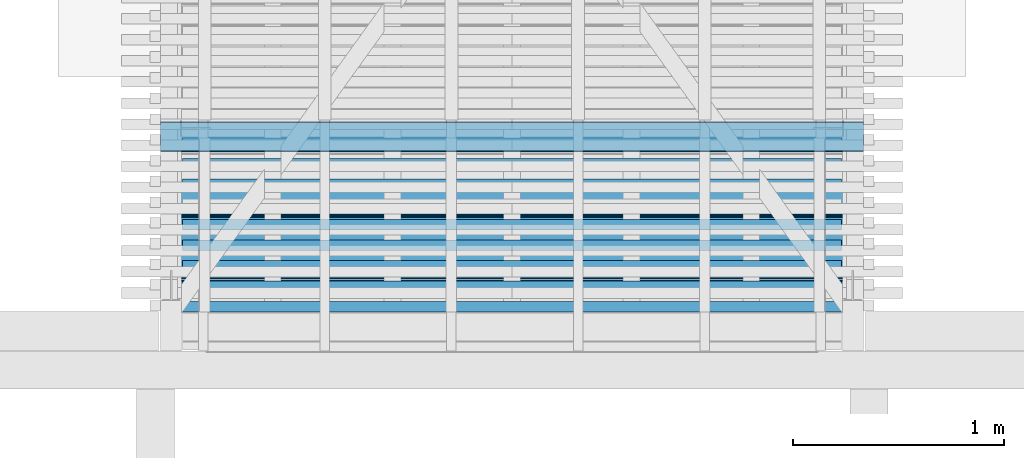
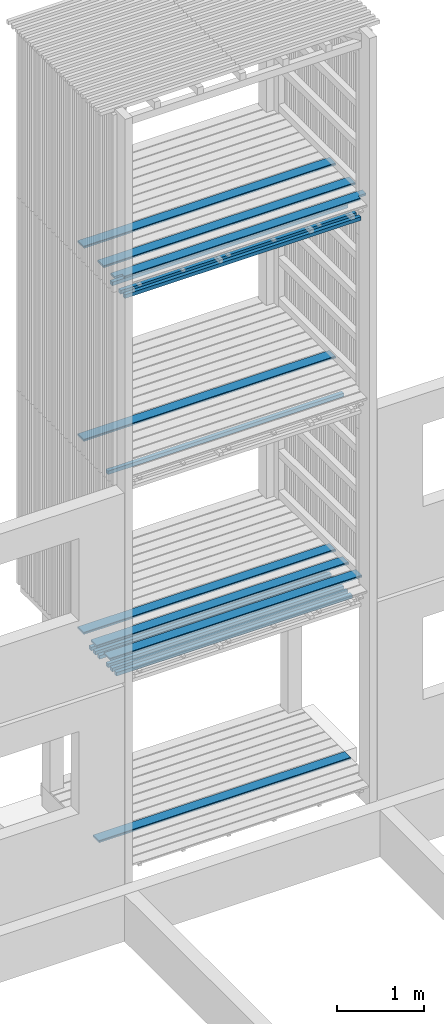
# One storey, part 16 of 182: 18 beams.
"""IFC2X3 building model written with IfcOpenShell, lengths in metres."""

from ifc_helpers import new_model, si_unit, frame, origin, place, context, project, spatial, faceted_brep, element, save


model = new_model("IFC2X3")

# Units and contexts
model_context = context("Model", 3, precision=1e-06, world=origin())
ifc_project = project(units=[si_unit("LENGTHUNIT", "METRE"), si_unit("PLANEANGLEUNIT", "RADIAN")], contexts=[model_context])

# Site, building, storey
site = spatial("IfcSite", under=ifc_project, CompositionType="ELEMENT")
building = spatial("IfcBuilding", under=site, CompositionType="ELEMENT")
storey = spatial("IfcBuildingStorey", under=building, Name="vs", CompositionType="ELEMENT", Elevation=-0.85)

# Beams
placement = place(None, origin())
beam_1_placement = place(placement, frame((6.539197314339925, 10.873827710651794, 2.467999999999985), z_axis=(0.0, 0.0, 1.0), x_axis=(-1.0, 0.0, 0.0)))
element("IfcBeam", 1, at=beam_1_placement, inside=storey, Name="Bardage", context=model_context, shape_type="Brep", body=[
    faceted_brep([(3.120000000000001, 0.025000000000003, -0.025), (3.120000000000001, -0.024999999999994, -0.025), (-3e-15, -0.024999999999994, -0.025), (-3e-15, 0.025000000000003, -0.025), (-3e-15, -0.024999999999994, -0.025), (3.120000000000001, -0.024999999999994, -0.025), (3.120000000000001, -0.024999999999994, 0.025), (-3e-15, -0.024999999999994, 0.025), (3.120000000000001, -0.024999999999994, -0.025), (3.120000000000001, 0.025000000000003, -0.025), (3.120000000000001, 0.025000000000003, 0.025), (3.120000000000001, -0.024999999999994, 0.025), (3.120000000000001, 0.025000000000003, 0.025), (3.120000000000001, 0.025000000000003, -0.025), (-3e-15, 0.025000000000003, -0.025), (-3e-15, 0.025000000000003, 0.025), (-3e-15, -0.024999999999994, 0.025), (3.120000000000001, -0.024999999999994, 0.025), (3.120000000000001, 0.025000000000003, 0.025), (-3e-15, 0.025000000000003, 0.025), (-3e-15, -0.024999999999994, -0.025), (-3e-15, -0.024999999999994, 0.025), (-3e-15, 0.025000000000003, 0.025), (-3e-15, 0.025000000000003, -0.025)], [[[0, 1, 2, 3]], [[4, 5, 6, 7]], [[8, 9, 10, 11]], [[12, 13, 14, 15]], [[16, 17, 18, 19]], [[20, 21, 22, 23]]]),
])
beam_2_placement = place(placement, frame((6.539197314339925, 11.06757771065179, 2.467999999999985), z_axis=(0.0, 0.0, 1.0), x_axis=(-1.0, -1e-15, 0.0)))
element("IfcBeam", 2, at=beam_2_placement, inside=storey, Name="Bardage", context=model_context, shape_type="Brep", body=[
    faceted_brep([(3.120000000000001, 0.025000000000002, -0.025), (3.120000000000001, -0.025000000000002, -0.025), (-3e-15, -0.024999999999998, -0.025), (-3e-15, 0.025000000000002, -0.025), (-3e-15, -0.024999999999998, -0.025), (3.120000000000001, -0.025000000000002, -0.025), (3.120000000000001, -0.025000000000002, 0.025), (-3e-15, -0.024999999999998, 0.025), (3.120000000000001, -0.025000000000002, -0.025), (3.120000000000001, 0.025000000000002, -0.025), (3.120000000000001, 0.025000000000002, 0.025), (3.120000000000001, -0.025000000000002, 0.025), (3.120000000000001, 0.025000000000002, 0.025), (3.120000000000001, 0.025000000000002, -0.025), (-3e-15, 0.025000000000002, -0.025), (-3e-15, 0.025000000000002, 0.025), (-3e-15, -0.024999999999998, 0.025), (3.120000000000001, -0.025000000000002, 0.025), (3.120000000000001, 0.025000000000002, 0.025), (-3e-15, 0.025000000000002, 0.025), (-3e-15, -0.024999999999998, -0.025), (-3e-15, -0.024999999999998, 0.025), (-3e-15, 0.025000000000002, 0.025), (-3e-15, 0.025000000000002, -0.025)], [[[0, 1, 2, 3]], [[4, 5, 6, 7]], [[8, 9, 10, 11]], [[12, 13, 14, 15]], [[16, 17, 18, 19]], [[20, 21, 22, 23]]]),
])
beam_3_placement = place(placement, frame((6.539197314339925, 11.358202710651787, 2.467999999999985), z_axis=(0.0, 0.0, 1.0), x_axis=(-1.0, -1e-15, 0.0)))
element("IfcBeam", 3, at=beam_3_placement, inside=storey, Name="Bardage", context=model_context, shape_type="Brep", body=[
    faceted_brep([(3.120000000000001, 0.024999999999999, -0.025), (3.120000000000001, -0.025000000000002, -0.025), (-3e-15, -0.025000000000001, -0.025), (-3e-15, 0.025000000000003, -0.025), (-3e-15, -0.025000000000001, -0.025), (3.120000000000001, -0.025000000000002, -0.025), (3.120000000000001, -0.025000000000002, 0.025), (-3e-15, -0.025000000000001, 0.025), (3.120000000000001, -0.025000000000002, -0.025), (3.120000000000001, 0.024999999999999, -0.025), (3.120000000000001, 0.024999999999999, 0.025), (3.120000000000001, -0.025000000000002, 0.025), (3.120000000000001, 0.024999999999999, 0.025), (3.120000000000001, 0.024999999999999, -0.025), (-3e-15, 0.025000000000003, -0.025), (-3e-15, 0.025000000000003, 0.025), (-3e-15, -0.025000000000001, 0.025), (3.120000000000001, -0.025000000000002, 0.025), (3.120000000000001, 0.024999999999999, 0.025), (-3e-15, 0.025000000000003, 0.025), (-3e-15, -0.025000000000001, -0.025), (-3e-15, -0.025000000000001, 0.025), (-3e-15, 0.025000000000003, 0.025), (-3e-15, 0.025000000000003, -0.025)], [[[0, 1, 2, 3]], [[4, 5, 6, 7]], [[8, 9, 10, 11]], [[12, 13, 14, 15]], [[16, 17, 18, 19]], [[20, 21, 22, 23]]]),
])
beam_4_placement = place(placement, frame((6.644197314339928, 10.884577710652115, 2.733499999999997), z_axis=(0.0, 0.0, 1.0), x_axis=(-1.0, -2e-15, 0.0)))
element("IfcBeam", 4, at=beam_4_placement, inside=storey, Name="Caillebotis", context=model_context, shape_type="Brep", body=[
    faceted_brep([(3.329999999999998, -0.072500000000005, -0.0135), (3.329999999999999, 0.072499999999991, -0.0135), (3.329999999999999, 0.072499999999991, 0.0085), (3.329999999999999, 0.067499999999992, 0.0135), (3.329999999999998, -0.067500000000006, 0.0135), (3.329999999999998, -0.072500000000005, 0.008500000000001), (0.0, -0.072500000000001, 0.008500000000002), (0.0, -0.067499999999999, 0.0135), (0.0, 0.067499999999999, 0.0135), (0.0, 0.072500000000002, 0.0085), (0.0, 0.072500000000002, -0.0135), (0.0, -0.072500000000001, -0.0135), (3.329999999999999, 0.072499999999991, 0.0085), (3.329999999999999, 0.072499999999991, -0.0135), (0.0, 0.072500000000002, -0.0135), (0.0, 0.072500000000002, 0.0085), (3.329999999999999, 0.067499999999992, 0.0135), (3.329999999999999, 0.072499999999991, 0.0085), (0.0, 0.072500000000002, 0.0085), (0.0, 0.067499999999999, 0.0135), (3.329999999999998, -0.067500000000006, 0.0135), (3.329999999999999, 0.067499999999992, 0.0135), (0.0, 0.067499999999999, 0.0135), (0.0, -0.067499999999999, 0.0135), (3.329999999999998, -0.072500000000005, 0.008500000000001), (3.329999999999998, -0.067500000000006, 0.0135), (0.0, -0.067499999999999, 0.0135), (0.0, -0.072500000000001, 0.008500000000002), (3.329999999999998, -0.072500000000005, -0.0135), (3.329999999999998, -0.072500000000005, 0.008500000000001), (0.0, -0.072500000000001, 0.008500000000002), (0.0, -0.072500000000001, -0.0135), (0.0, 0.072500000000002, -0.0135), (3.329999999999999, 0.072499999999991, -0.0135), (3.329999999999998, -0.072500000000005, -0.0135), (0.0, -0.072500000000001, -0.0135)], [[[0, 1, 2, 3, 4, 5]], [[6, 7, 8, 9, 10, 11]], [[12, 13, 14, 15]], [[16, 17, 18, 19]], [[20, 21, 22, 23]], [[24, 25, 26, 27]], [[28, 29, 30, 31]], [[32, 33, 34, 35]]]),
])
beam_5_placement = place(placement, frame((6.644197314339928, 11.184577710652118, 2.733499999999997), z_axis=(0.0, 0.0, 1.0), x_axis=(-1.0, 0.0, 0.0)))
element("IfcBeam", 5, at=beam_5_placement, inside=storey, Name="Caillebotis", context=model_context, shape_type="Brep", body=[
    faceted_brep([(3.329999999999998, -0.072499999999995, -0.0135), (3.329999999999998, 0.072500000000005, -0.0135), (3.329999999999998, 0.072500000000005, 0.0085), (3.329999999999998, 0.067500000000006, 0.0135), (3.329999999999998, -0.067499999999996, 0.0135), (3.329999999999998, -0.072499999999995, 0.008500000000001), (0.0, -0.072499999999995, 0.008500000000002), (0.0, -0.067499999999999, 0.0135), (0.0, 0.067500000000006, 0.0135), (0.0, 0.072500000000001, 0.0085), (0.0, 0.072500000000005, -0.0135), (0.0, -0.072499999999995, -0.0135), (3.329999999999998, 0.072500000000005, 0.0085), (3.329999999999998, 0.072500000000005, -0.0135), (0.0, 0.072500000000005, -0.0135), (0.0, 0.072500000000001, 0.0085), (3.329999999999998, 0.067500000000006, 0.0135), (3.329999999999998, 0.072500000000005, 0.0085), (0.0, 0.072500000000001, 0.0085), (0.0, 0.067500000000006, 0.0135), (3.329999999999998, -0.067499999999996, 0.0135), (3.329999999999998, 0.067500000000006, 0.0135), (0.0, 0.067500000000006, 0.0135), (0.0, -0.067499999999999, 0.0135), (3.329999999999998, -0.072499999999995, 0.008500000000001), (3.329999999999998, -0.067499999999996, 0.0135), (0.0, -0.067499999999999, 0.0135), (0.0, -0.072499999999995, 0.008500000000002), (3.329999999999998, -0.072499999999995, -0.0135), (3.329999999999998, -0.072499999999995, 0.008500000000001), (0.0, -0.072499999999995, 0.008500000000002), (0.0, -0.072499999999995, -0.0135), (0.0, 0.072500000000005, -0.0135), (3.329999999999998, 0.072500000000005, -0.0135), (3.329999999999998, -0.072499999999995, -0.0135), (0.0, -0.072499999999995, -0.0135)], [[[0, 1, 2, 3, 4, 5]], [[6, 7, 8, 9, 10, 11]], [[12, 13, 14, 15]], [[16, 17, 18, 19]], [[20, 21, 22, 23]], [[24, 25, 26, 27]], [[28, 29, 30, 31]], [[32, 33, 34, 35]]]),
])
beam_6_placement = place(placement, frame((6.539197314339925, 11.261327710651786, 2.467999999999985), z_axis=(0.0, 0.0, 1.0), x_axis=(-1.0, 0.0, 0.0)))
element("IfcBeam", 6, at=beam_6_placement, inside=storey, Name="Bardage", context=model_context, shape_type="Brep", body=[
    faceted_brep([(3.120000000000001, 0.024999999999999, -0.025), (3.120000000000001, -0.024999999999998, -0.025), (-3e-15, -0.025000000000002, -0.025), (-3e-15, 0.024999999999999, -0.025), (-3e-15, -0.025000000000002, -0.025), (3.120000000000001, -0.024999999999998, -0.025), (3.120000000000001, -0.024999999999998, 0.025), (-3e-15, -0.025000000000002, 0.025), (3.120000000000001, -0.024999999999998, -0.025), (3.120000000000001, 0.024999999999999, -0.025), (3.120000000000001, 0.024999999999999, 0.025), (3.120000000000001, -0.024999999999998, 0.025), (3.120000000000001, 0.024999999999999, 0.025), (3.120000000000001, 0.024999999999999, -0.025), (-3e-15, 0.024999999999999, -0.025), (-3e-15, 0.024999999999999, 0.025), (-3e-15, -0.025000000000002, 0.025), (3.120000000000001, -0.024999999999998, 0.025), (3.120000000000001, 0.024999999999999, 0.025), (-3e-15, 0.024999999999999, 0.025), (-3e-15, -0.025000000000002, -0.025), (-3e-15, -0.025000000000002, 0.025), (-3e-15, 0.024999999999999, 0.025), (-3e-15, 0.024999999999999, -0.025)], [[[0, 1, 2, 3]], [[4, 5, 6, 7]], [[8, 9, 10, 11]], [[12, 13, 14, 15]], [[16, 17, 18, 19]], [[20, 21, 22, 23]]]),
])
beam_7_placement = place(placement, frame((6.539197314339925, 11.455077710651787, 2.467999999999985), z_axis=(0.0, 0.0, 1.0), x_axis=(-1.0, -1e-15, 0.0)))
element("IfcBeam", 7, at=beam_7_placement, inside=storey, Name="Bardage", context=model_context, shape_type="Brep", body=[
    faceted_brep([(3.120000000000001, 0.025000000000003, -0.025), (3.120000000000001, -0.025000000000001, -0.025), (-3e-15, -0.024999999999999, -0.025), (-3e-15, 0.025000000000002, -0.025), (-3e-15, -0.024999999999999, -0.025), (3.120000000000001, -0.025000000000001, -0.025), (3.120000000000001, -0.025000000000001, 0.025), (-3e-15, -0.024999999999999, 0.025), (3.120000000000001, -0.025000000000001, -0.025), (3.120000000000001, 0.025000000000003, -0.025), (3.120000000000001, 0.025000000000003, 0.025), (3.120000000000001, -0.025000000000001, 0.025), (3.120000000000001, 0.025000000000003, 0.025), (3.120000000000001, 0.025000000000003, -0.025), (-3e-15, 0.025000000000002, -0.025), (-3e-15, 0.025000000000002, 0.025), (-3e-15, -0.024999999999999, 0.025), (3.120000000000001, -0.025000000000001, 0.025), (3.120000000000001, 0.025000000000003, 0.025), (-3e-15, 0.025000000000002, 0.025), (-3e-15, -0.024999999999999, -0.025), (-3e-15, -0.024999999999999, 0.025), (-3e-15, 0.025000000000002, 0.025), (-3e-15, 0.025000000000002, -0.025)], [[[0, 1, 2, 3]], [[4, 5, 6, 7]], [[8, 9, 10, 11]], [[12, 13, 14, 15]], [[16, 17, 18, 19]], [[20, 21, 22, 23]]]),
])
beam_8_placement = place(placement, frame((6.644197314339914, 11.134577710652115, 0.033500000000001), z_axis=(0.0, 0.0, 1.0), x_axis=(-1.0, -1e-15, 0.0)))
element("IfcBeam", 8, at=beam_8_placement, inside=storey, Name="Caillebotis", context=model_context, shape_type="Brep", body=[
    faceted_brep([(3.329999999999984, -0.067500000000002, 0.0135), (3.329999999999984, -0.072500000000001, 0.008500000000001), (3.329999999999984, -0.072500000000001, -0.013500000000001), (3.329999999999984, 0.072499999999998, -0.013500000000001), (3.329999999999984, 0.072499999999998, 0.0085), (3.329999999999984, 0.067499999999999, 0.0135), (0.0, 0.067499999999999, 0.0135), (0.0, 0.072500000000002, 0.0085), (0.0, 0.072500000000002, -0.013500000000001), (0.0, -0.072500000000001, -0.013500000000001), (0.0, -0.072500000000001, 0.008500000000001), (0.0, -0.067499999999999, 0.0135), (3.329999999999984, -0.072500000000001, -0.013500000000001), (3.329999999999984, -0.072500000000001, 0.008500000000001), (0.0, -0.072500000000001, 0.008500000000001), (0.0, -0.072500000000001, -0.013500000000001), (3.329999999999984, 0.072499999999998, -0.013500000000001), (3.329999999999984, -0.072500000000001, -0.013500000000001), (0.0, -0.072500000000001, -0.013500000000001), (0.0, 0.072500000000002, -0.013500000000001), (3.329999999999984, 0.072499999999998, 0.0085), (3.329999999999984, 0.072499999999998, -0.013500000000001), (0.0, 0.072500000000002, -0.013500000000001), (0.0, 0.072500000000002, 0.0085), (3.329999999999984, 0.067499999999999, 0.0135), (3.329999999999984, 0.072499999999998, 0.0085), (0.0, 0.072500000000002, 0.0085), (0.0, 0.067499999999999, 0.0135), (3.329999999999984, -0.067500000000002, 0.0135), (3.329999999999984, 0.067499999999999, 0.0135), (0.0, 0.067499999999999, 0.0135), (0.0, -0.067499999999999, 0.0135), (0.0, -0.072500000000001, 0.008500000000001), (3.329999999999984, -0.072500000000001, 0.008500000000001), (3.329999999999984, -0.067500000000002, 0.0135), (0.0, -0.067499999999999, 0.0135)], [[[0, 1, 2, 3, 4, 5]], [[6, 7, 8, 9, 10, 11]], [[12, 13, 14, 15]], [[16, 17, 18, 19]], [[20, 21, 22, 23]], [[24, 25, 26, 27]], [[28, 29, 30, 31]], [[32, 33, 34, 35]]]),
])
beam_9_placement = place(placement, frame((6.539197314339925, 10.776952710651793, 7.867999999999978), z_axis=(0.0, 0.0, 1.0), x_axis=(-1.0, 0.0, 0.0)))
element("IfcBeam", 9, at=beam_9_placement, inside=storey, Name="Bardage", context=model_context, shape_type="Brep", body=[
    faceted_brep([(3.120000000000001, 0.025000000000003, -0.025000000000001), (3.120000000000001, -0.024999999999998, -0.025000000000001), (-3e-15, -0.024999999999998, -0.025000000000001), (-3e-15, 0.025000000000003, -0.025000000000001), (-3e-15, -0.024999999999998, -0.025000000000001), (3.120000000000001, -0.024999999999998, -0.025000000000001), (3.120000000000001, -0.024999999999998, 0.024999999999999), (-3e-15, -0.024999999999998, 0.024999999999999), (3.120000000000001, -0.024999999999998, -0.025000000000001), (3.120000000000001, 0.025000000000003, -0.025000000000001), (3.120000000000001, 0.025000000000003, 0.024999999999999), (3.120000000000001, -0.024999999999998, 0.024999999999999), (3.120000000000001, 0.025000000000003, 0.024999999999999), (3.120000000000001, 0.025000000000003, -0.025000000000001), (-3e-15, 0.025000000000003, -0.025000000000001), (-3e-15, 0.025000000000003, 0.024999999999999), (-3e-15, -0.024999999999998, 0.024999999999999), (3.120000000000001, -0.024999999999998, 0.024999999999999), (3.120000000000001, 0.025000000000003, 0.024999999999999), (-3e-15, 0.025000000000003, 0.024999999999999), (-3e-15, -0.024999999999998, -0.025000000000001), (-3e-15, -0.024999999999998, 0.024999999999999), (-3e-15, 0.025000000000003, 0.024999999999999), (-3e-15, 0.025000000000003, -0.025000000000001)], [[[0, 1, 2, 3]], [[4, 5, 6, 7]], [[8, 9, 10, 11]], [[12, 13, 14, 15]], [[16, 17, 18, 19]], [[20, 21, 22, 23]]]),
])
beam_10_placement = place(placement, frame((6.644197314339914, 11.484577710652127, 2.733499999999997), z_axis=(0.0, 0.0, 1.0), x_axis=(-1.0, -8e-15, 0.0)))
element("IfcBeam", 10, at=beam_10_placement, inside=storey, Name="Caillebotis", context=model_context, shape_type="Brep", body=[
    faceted_brep([(3.329999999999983, -0.072500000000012, -0.0135), (3.329999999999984, 0.072499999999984, -0.0135), (3.329999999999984, 0.072499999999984, 0.0085), (3.329999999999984, 0.067499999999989, 0.0135), (3.329999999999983, -0.067500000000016, 0.0135), (3.329999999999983, -0.072500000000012, 0.008500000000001), (-1.5e-14, -0.072499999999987, 0.008500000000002), (-1.5e-14, -0.067499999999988, 0.0135), (-1.4e-14, 0.067500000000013, 0.0135), (-1.4e-14, 0.072500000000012, 0.0085), (-1.4e-14, 0.072500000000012, -0.0135), (-1.5e-14, -0.072499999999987, -0.0135), (3.329999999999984, 0.072499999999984, 0.0085), (3.329999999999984, 0.072499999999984, -0.0135), (-1.4e-14, 0.072500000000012, -0.0135), (-1.4e-14, 0.072500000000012, 0.0085), (3.329999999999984, 0.067499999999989, 0.0135), (3.329999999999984, 0.072499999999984, 0.0085), (-1.4e-14, 0.072500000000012, 0.0085), (-1.4e-14, 0.067500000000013, 0.0135), (3.329999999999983, -0.067500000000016, 0.0135), (3.329999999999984, 0.067499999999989, 0.0135), (-1.4e-14, 0.067500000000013, 0.0135), (-1.5e-14, -0.067499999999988, 0.0135), (3.329999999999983, -0.072500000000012, 0.008500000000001), (3.329999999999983, -0.067500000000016, 0.0135), (-1.5e-14, -0.067499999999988, 0.0135), (-1.5e-14, -0.072499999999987, 0.008500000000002), (3.329999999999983, -0.072500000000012, -0.0135), (3.329999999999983, -0.072500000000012, 0.008500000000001), (-1.5e-14, -0.072499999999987, 0.008500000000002), (-1.5e-14, -0.072499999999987, -0.0135), (-1.4e-14, 0.072500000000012, -0.0135), (3.329999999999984, 0.072499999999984, -0.0135), (3.329999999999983, -0.072500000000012, -0.0135), (-1.5e-14, -0.072499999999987, -0.0135)], [[[0, 1, 2, 3, 4, 5]], [[6, 7, 8, 9, 10, 11]], [[12, 13, 14, 15]], [[16, 17, 18, 19]], [[20, 21, 22, 23]], [[24, 25, 26, 27]], [[28, 29, 30, 31]], [[32, 33, 34, 35]]]),
])
beam_11_placement = place(placement, frame((6.539197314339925, 11.067577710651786, 5.167999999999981), z_axis=(0.0, 0.0, 1.0), x_axis=(-1.0, 0.0, 0.0)))
element("IfcBeam", 11, at=beam_11_placement, inside=storey, Name="Bardage", context=model_context, shape_type="Brep", body=[
    faceted_brep([(3.120000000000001, 0.025000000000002, -0.025), (3.120000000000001, -0.025000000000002, -0.025), (-3e-15, -0.025000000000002, -0.025), (-3e-15, 0.024999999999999, -0.025), (-3e-15, -0.025000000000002, -0.025), (3.120000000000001, -0.025000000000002, -0.025), (3.120000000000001, -0.025000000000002, 0.025000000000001), (-3e-15, -0.025000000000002, 0.025000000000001), (3.120000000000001, -0.025000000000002, -0.025), (3.120000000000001, 0.025000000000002, -0.025), (3.120000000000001, 0.025000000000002, 0.025000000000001), (3.120000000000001, -0.025000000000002, 0.025000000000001), (3.120000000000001, 0.025000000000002, 0.025000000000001), (3.120000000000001, 0.025000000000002, -0.025), (-3e-15, 0.024999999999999, -0.025), (-3e-15, 0.024999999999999, 0.025000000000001), (-3e-15, -0.025000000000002, 0.025000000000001), (3.120000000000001, -0.025000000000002, 0.025000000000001), (3.120000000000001, 0.025000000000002, 0.025000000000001), (-3e-15, 0.024999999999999, 0.025000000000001), (-3e-15, -0.025000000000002, -0.025), (-3e-15, -0.025000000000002, 0.025000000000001), (-3e-15, 0.024999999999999, 0.025000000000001), (-3e-15, 0.024999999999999, -0.025)], [[[0, 1, 2, 3]], [[4, 5, 6, 7]], [[8, 9, 10, 11]], [[12, 13, 14, 15]], [[16, 17, 18, 19]], [[20, 21, 22, 23]]]),
])
beam_12_placement = place(placement, frame((6.644197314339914, 11.484577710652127, 5.433499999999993), z_axis=(0.0, 0.0, 1.0), x_axis=(-1.0, -8e-15, 0.0)))
element("IfcBeam", 12, at=beam_12_placement, inside=storey, Name="Caillebotis", context=model_context, shape_type="Brep", body=[
    faceted_brep([(3.329999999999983, -0.072500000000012, -0.0135), (3.329999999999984, 0.072499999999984, -0.0135), (3.329999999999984, 0.072499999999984, 0.0085), (3.329999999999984, 0.067499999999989, 0.0135), (3.329999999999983, -0.067500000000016, 0.0135), (3.329999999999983, -0.072500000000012, 0.008500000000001), (-1.5e-14, -0.072499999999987, 0.008500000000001), (-1.5e-14, -0.067499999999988, 0.0135), (-1.4e-14, 0.067500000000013, 0.0135), (-1.4e-14, 0.072500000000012, 0.0085), (-1.4e-14, 0.072500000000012, -0.0135), (-1.5e-14, -0.072499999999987, -0.0135), (3.329999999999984, 0.072499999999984, 0.0085), (3.329999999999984, 0.072499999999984, -0.0135), (-1.4e-14, 0.072500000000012, -0.0135), (-1.4e-14, 0.072500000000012, 0.0085), (3.329999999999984, 0.067499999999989, 0.0135), (3.329999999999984, 0.072499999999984, 0.0085), (-1.4e-14, 0.072500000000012, 0.0085), (-1.4e-14, 0.067500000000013, 0.0135), (3.329999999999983, -0.067500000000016, 0.0135), (3.329999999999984, 0.067499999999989, 0.0135), (-1.4e-14, 0.067500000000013, 0.0135), (-1.5e-14, -0.067499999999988, 0.0135), (3.329999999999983, -0.072500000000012, 0.008500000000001), (3.329999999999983, -0.067500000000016, 0.0135), (-1.5e-14, -0.067499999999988, 0.0135), (-1.5e-14, -0.072499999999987, 0.008500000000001), (3.329999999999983, -0.072500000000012, -0.0135), (3.329999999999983, -0.072500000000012, 0.008500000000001), (-1.5e-14, -0.072499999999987, 0.008500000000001), (-1.5e-14, -0.072499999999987, -0.0135), (-1.4e-14, 0.072500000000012, -0.0135), (3.329999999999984, 0.072499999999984, -0.0135), (3.329999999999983, -0.072500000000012, -0.0135), (-1.5e-14, -0.072499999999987, -0.0135)], [[[0, 1, 2, 3, 4, 5]], [[6, 7, 8, 9, 10, 11]], [[12, 13, 14, 15]], [[16, 17, 18, 19]], [[20, 21, 22, 23]], [[24, 25, 26, 27]], [[28, 29, 30, 31]], [[32, 33, 34, 35]]]),
])
beam_13_placement = place(placement, frame((6.644197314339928, 11.484577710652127, 8.13349999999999), z_axis=(0.0, 0.0, 1.0), x_axis=(-1.0, -8e-15, 0.0)))
element("IfcBeam", 13, at=beam_13_placement, inside=storey, Name="Caillebotis", context=model_context, shape_type="Brep", body=[
    faceted_brep([(3.329999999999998, -0.072500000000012, -0.013500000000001), (3.329999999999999, 0.072499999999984, -0.013500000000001), (3.329999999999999, 0.072499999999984, 0.008499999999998), (3.329999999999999, 0.067499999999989, 0.013499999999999), (3.329999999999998, -0.067500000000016, 0.013499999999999), (3.329999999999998, -0.072500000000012, 0.0085), (-1e-15, -0.072499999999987, 0.0085), (-1e-15, -0.067499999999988, 0.013499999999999), (1e-15, 0.067500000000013, 0.013499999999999), (1e-15, 0.072500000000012, 0.008499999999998), (1e-15, 0.072500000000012, -0.013500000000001), (-1e-15, -0.072499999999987, -0.013500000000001), (3.329999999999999, 0.072499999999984, 0.008499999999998), (3.329999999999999, 0.072499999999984, -0.013500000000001), (1e-15, 0.072500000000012, -0.013500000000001), (1e-15, 0.072500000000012, 0.008499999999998), (3.329999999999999, 0.067499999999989, 0.013499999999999), (3.329999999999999, 0.072499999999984, 0.008499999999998), (1e-15, 0.072500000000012, 0.008499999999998), (1e-15, 0.067500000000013, 0.013499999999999), (3.329999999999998, -0.067500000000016, 0.013499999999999), (3.329999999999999, 0.067499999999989, 0.013499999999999), (1e-15, 0.067500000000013, 0.013499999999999), (-1e-15, -0.067499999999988, 0.013499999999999), (3.329999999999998, -0.072500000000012, 0.0085), (3.329999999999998, -0.067500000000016, 0.013499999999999), (-1e-15, -0.067499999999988, 0.013499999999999), (-1e-15, -0.072499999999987, 0.0085), (3.329999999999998, -0.072500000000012, -0.013500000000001), (3.329999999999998, -0.072500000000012, 0.0085), (-1e-15, -0.072499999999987, 0.0085), (-1e-15, -0.072499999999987, -0.013500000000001), (1e-15, 0.072500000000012, -0.013500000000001), (3.329999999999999, 0.072499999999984, -0.013500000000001), (3.329999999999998, -0.072500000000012, -0.013500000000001), (-1e-15, -0.072499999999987, -0.013500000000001)], [[[0, 1, 2, 3, 4, 5]], [[6, 7, 8, 9, 10, 11]], [[12, 13, 14, 15]], [[16, 17, 18, 19]], [[20, 21, 22, 23]], [[24, 25, 26, 27]], [[28, 29, 30, 31]], [[32, 33, 34, 35]]]),
])
beam_14_placement = place(placement, frame((6.539197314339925, 10.680077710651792, 7.867999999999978), z_axis=(0.0, 0.0, 1.0), x_axis=(-1.0, 0.0, 0.0)))
element("IfcBeam", 14, at=beam_14_placement, inside=storey, Name="Bardage", context=model_context, shape_type="Brep", body=[
    faceted_brep([(3.120000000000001, -0.025000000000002, 0.024999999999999), (3.120000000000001, -0.025000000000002, -0.025000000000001), (3.120000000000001, 0.024999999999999, -0.025000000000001), (3.120000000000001, 0.024999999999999, 0.024999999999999), (-3e-15, 0.024999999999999, 0.024999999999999), (-3e-15, 0.024999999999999, -0.025000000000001), (-3e-15, -0.024999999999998, -0.025000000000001), (-3e-15, -0.024999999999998, 0.024999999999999), (3.120000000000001, -0.025000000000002, -0.025000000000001), (3.120000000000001, -0.025000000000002, 0.024999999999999), (-3e-15, -0.024999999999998, 0.024999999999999), (-3e-15, -0.024999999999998, -0.025000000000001), (3.120000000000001, 0.024999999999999, -0.025000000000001), (3.120000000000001, -0.025000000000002, -0.025000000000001), (-3e-15, -0.024999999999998, -0.025000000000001), (-3e-15, 0.024999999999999, -0.025000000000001), (3.120000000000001, 0.024999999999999, 0.024999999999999), (3.120000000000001, 0.024999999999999, -0.025000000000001), (-3e-15, 0.024999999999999, -0.025000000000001), (-3e-15, 0.024999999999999, 0.024999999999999), (3.120000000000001, -0.025000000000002, 0.024999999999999), (3.120000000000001, 0.024999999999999, 0.024999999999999), (-3e-15, 0.024999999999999, 0.024999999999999), (-3e-15, -0.024999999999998, 0.024999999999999)], [[[0, 1, 2, 3]], [[4, 5, 6, 7]], [[8, 9, 10, 11]], [[12, 13, 14, 15]], [[16, 17, 18, 19]], [[20, 21, 22, 23]]]),
])
beam_15_placement = place(placement, frame((6.539197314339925, 10.97070271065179, 2.467999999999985), z_axis=(0.0, 0.0, 1.0), x_axis=(-1.0, -1e-15, 0.0)))
element("IfcBeam", 15, at=beam_15_placement, inside=storey, Name="Bardage", context=model_context, shape_type="Brep", body=[
    faceted_brep([(3.120000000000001, 0.024999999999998, -0.025), (3.120000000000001, -0.025000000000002, -0.025), (-3e-15, -0.024999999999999, -0.025), (-3e-15, 0.025000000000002, -0.025), (-3e-15, -0.024999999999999, -0.025), (3.120000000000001, -0.025000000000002, -0.025), (3.120000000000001, -0.025000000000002, 0.025), (-3e-15, -0.024999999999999, 0.025), (3.120000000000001, -0.025000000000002, -0.025), (3.120000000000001, 0.024999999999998, -0.025), (3.120000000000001, 0.024999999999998, 0.025), (3.120000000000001, -0.025000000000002, 0.025), (3.120000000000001, 0.024999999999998, 0.025), (3.120000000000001, 0.024999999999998, -0.025), (-3e-15, 0.025000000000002, -0.025), (-3e-15, 0.025000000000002, 0.025), (-3e-15, -0.024999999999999, 0.025), (3.120000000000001, -0.025000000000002, 0.025), (3.120000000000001, 0.024999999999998, 0.025), (-3e-15, 0.025000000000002, 0.025), (-3e-15, -0.024999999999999, -0.025), (-3e-15, -0.024999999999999, 0.025), (-3e-15, 0.025000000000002, 0.025), (-3e-15, 0.025000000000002, -0.025)], [[[0, 1, 2, 3]], [[4, 5, 6, 7]], [[8, 9, 10, 11]], [[12, 13, 14, 15]], [[16, 17, 18, 19]], [[20, 21, 22, 23]]]),
])
beam_16_placement = place(placement, frame((6.644197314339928, 11.034577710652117, 8.13349999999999), z_axis=(0.0, 0.0, 1.0), x_axis=(-1.0, -1e-15, 0.0)))
element("IfcBeam", 16, at=beam_16_placement, inside=storey, Name="Caillebotis", context=model_context, shape_type="Brep", body=[
    faceted_brep([(3.329999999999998, -0.072500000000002, -0.013500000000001), (3.329999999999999, 0.072500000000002, -0.013500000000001), (3.329999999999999, 0.072500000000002, 0.008499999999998), (3.329999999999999, 0.067499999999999, 0.013499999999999), (3.329999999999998, -0.067499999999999, 0.013499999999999), (3.329999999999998, -0.072500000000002, 0.0085), (0.0, -0.072499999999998, 0.0085), (0.0, -0.067499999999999, 0.013499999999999), (0.0, 0.067500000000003, 0.013499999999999), (0.0, 0.072500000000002, 0.008499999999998), (0.0, 0.072500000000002, -0.013500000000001), (0.0, -0.072499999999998, -0.013500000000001), (3.329999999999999, 0.072500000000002, 0.008499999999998), (3.329999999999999, 0.072500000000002, -0.013500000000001), (0.0, 0.072500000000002, -0.013500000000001), (0.0, 0.072500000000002, 0.008499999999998), (3.329999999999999, 0.067499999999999, 0.013499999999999), (3.329999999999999, 0.072500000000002, 0.008499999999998), (0.0, 0.072500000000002, 0.008499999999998), (0.0, 0.067500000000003, 0.013499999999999), (3.329999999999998, -0.067499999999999, 0.013499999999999), (3.329999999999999, 0.067499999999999, 0.013499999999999), (0.0, 0.067500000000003, 0.013499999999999), (0.0, -0.067499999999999, 0.013499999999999), (3.329999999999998, -0.072500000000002, 0.0085), (3.329999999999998, -0.067499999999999, 0.013499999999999), (0.0, -0.067499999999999, 0.013499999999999), (0.0, -0.072499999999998, 0.0085), (3.329999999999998, -0.072500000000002, -0.013500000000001), (3.329999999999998, -0.072500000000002, 0.0085), (0.0, -0.072499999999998, 0.0085), (0.0, -0.072499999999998, -0.013500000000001), (0.0, 0.072500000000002, -0.013500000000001), (3.329999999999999, 0.072500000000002, -0.013500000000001), (3.329999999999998, -0.072500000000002, -0.013500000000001), (0.0, -0.072499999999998, -0.013500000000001)], [[[0, 1, 2, 3, 4, 5]], [[6, 7, 8, 9, 10, 11]], [[12, 13, 14, 15]], [[16, 17, 18, 19]], [[20, 21, 22, 23]], [[24, 25, 26, 27]], [[28, 29, 30, 31]], [[32, 33, 34, 35]]]),
])
beam_17_placement = place(placement, frame((6.644197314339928, 10.734577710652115, 8.13349999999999), z_axis=(0.0, 0.0, 1.0), x_axis=(-1.0, 0.0, 0.0)))
element("IfcBeam", 17, at=beam_17_placement, inside=storey, Name="Caillebotis", context=model_context, shape_type="Brep", body=[
    faceted_brep([(0.0, -0.072499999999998, -0.013500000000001), (0.0, -0.072499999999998, 0.0085), (0.0, -0.067499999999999, 0.013499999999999), (0.0, 0.019500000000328, 0.013499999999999), (0.0, 0.019500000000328, -0.013500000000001), (3.329999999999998, -0.067499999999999, 0.013499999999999), (3.329999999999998, 0.019500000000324, 0.013499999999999), (3.225000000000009, 0.019500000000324, 0.013499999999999), (3.225000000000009, 0.067500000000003, 0.013499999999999), (0.105000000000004, 0.067500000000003, 0.013499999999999), (0.105000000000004, 0.019500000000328, 0.013499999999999), (0.0, 0.019500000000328, 0.013499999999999), (0.0, -0.067499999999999, 0.013499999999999), (0.105000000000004, 0.019500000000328, 0.013499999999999), (0.105000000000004, 0.067500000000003, 0.013499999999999), (0.105000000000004, 0.072500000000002, 0.0085), (0.105000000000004, 0.072500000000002, -0.013500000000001), (0.105000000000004, 0.019500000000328, -0.013500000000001), (0.105000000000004, 0.072500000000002, 0.0085), (0.105000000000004, 0.067500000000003, 0.013499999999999), (3.225000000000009, 0.067500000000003, 0.013499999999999), (3.225000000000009, 0.072500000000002, 0.008499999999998), (0.105000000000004, 0.072500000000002, -0.013500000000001), (0.105000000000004, 0.072500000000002, 0.0085), (3.225000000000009, 0.072500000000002, 0.008499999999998), (3.225000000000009, 0.072500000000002, -0.013500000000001), (3.225000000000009, 0.072500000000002, -0.013500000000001), (3.225000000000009, 0.072500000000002, 0.008499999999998), (3.225000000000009, 0.067500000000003, 0.013499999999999), (3.225000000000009, 0.019500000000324, 0.013499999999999), (3.225000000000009, 0.019500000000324, -0.013500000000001), (3.225000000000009, 0.019500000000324, -0.013500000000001), (3.225000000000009, 0.019500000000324, 0.013499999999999), (3.329999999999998, 0.019500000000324, 0.013499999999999), (3.329999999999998, 0.019500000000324, -0.013500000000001), (3.329999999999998, -0.072499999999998, 0.0085), (3.329999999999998, -0.072499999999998, -0.013500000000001), (3.329999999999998, 0.019500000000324, -0.013500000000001), (3.329999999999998, 0.019500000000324, 0.013499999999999), (3.329999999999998, -0.067499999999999, 0.013499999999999), (3.329999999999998, -0.072499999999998, 0.0085), (3.329999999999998, -0.067499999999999, 0.013499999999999), (0.0, -0.067499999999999, 0.013499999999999), (0.0, -0.072499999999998, 0.0085), (3.329999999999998, -0.072499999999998, -0.013500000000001), (3.329999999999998, -0.072499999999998, 0.0085), (0.0, -0.072499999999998, 0.0085), (0.0, -0.072499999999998, -0.013500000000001), (0.105000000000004, 0.019500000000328, -0.013500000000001), (0.105000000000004, 0.072500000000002, -0.013500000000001), (3.225000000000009, 0.072500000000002, -0.013500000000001), (3.225000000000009, 0.019500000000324, -0.013500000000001), (3.329999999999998, 0.019500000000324, -0.013500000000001), (3.329999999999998, -0.072499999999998, -0.013500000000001), (0.0, -0.072499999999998, -0.013500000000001), (0.0, 0.019500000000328, -0.013500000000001), (0.0, 0.019500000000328, 0.013499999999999), (0.105000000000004, 0.019500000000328, 0.013499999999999), (0.105000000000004, 0.019500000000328, -0.013500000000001), (0.0, 0.019500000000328, -0.013500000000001)], [[[0, 1, 2, 3, 4]], [[5, 6, 7, 8, 9, 10, 11, 12]], [[13, 14, 15, 16, 17]], [[18, 19, 20, 21]], [[22, 23, 24, 25]], [[26, 27, 28, 29, 30]], [[31, 32, 33, 34]], [[35, 36, 37, 38, 39]], [[40, 41, 42, 43]], [[44, 45, 46, 47]], [[48, 49, 50, 51, 52, 53, 54, 55]], [[56, 57, 58, 59]]]),
])
beam_18_placement = place(placement, frame((6.539197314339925, 10.970702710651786, 7.867999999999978), z_axis=(0.0, 0.0, 1.0), x_axis=(-1.0, 0.0, 0.0)))
element("IfcBeam", 18, at=beam_18_placement, inside=storey, Name="Bardage", context=model_context, shape_type="Brep", body=[
    faceted_brep([(3.120000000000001, 0.024999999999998, -0.025000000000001), (3.120000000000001, -0.025000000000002, -0.025000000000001), (-3e-15, -0.025000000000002, -0.025000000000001), (-3e-15, 0.024999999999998, -0.025000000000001), (-3e-15, -0.025000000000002, -0.025000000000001), (3.120000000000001, -0.025000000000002, -0.025000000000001), (3.120000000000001, -0.025000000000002, 0.024999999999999), (-3e-15, -0.025000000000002, 0.024999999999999), (3.120000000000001, -0.025000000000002, -0.025000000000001), (3.120000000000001, 0.024999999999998, -0.025000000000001), (3.120000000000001, 0.024999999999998, 0.024999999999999), (3.120000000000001, -0.025000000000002, 0.024999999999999), (3.120000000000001, 0.024999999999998, 0.024999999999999), (3.120000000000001, 0.024999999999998, -0.025000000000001), (-3e-15, 0.024999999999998, -0.025000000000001), (-3e-15, 0.024999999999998, 0.024999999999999), (-3e-15, -0.025000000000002, 0.024999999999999), (3.120000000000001, -0.025000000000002, 0.024999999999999), (3.120000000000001, 0.024999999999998, 0.024999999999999), (-3e-15, 0.024999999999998, 0.024999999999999), (-3e-15, -0.025000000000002, -0.025000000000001), (-3e-15, -0.025000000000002, 0.024999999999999), (-3e-15, 0.024999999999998, 0.024999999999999), (-3e-15, 0.024999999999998, -0.025000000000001)], [[[0, 1, 2, 3]], [[4, 5, 6, 7]], [[8, 9, 10, 11]], [[12, 13, 14, 15]], [[16, 17, 18, 19]], [[20, 21, 22, 23]]]),
])

save(model, "model.ifc")
